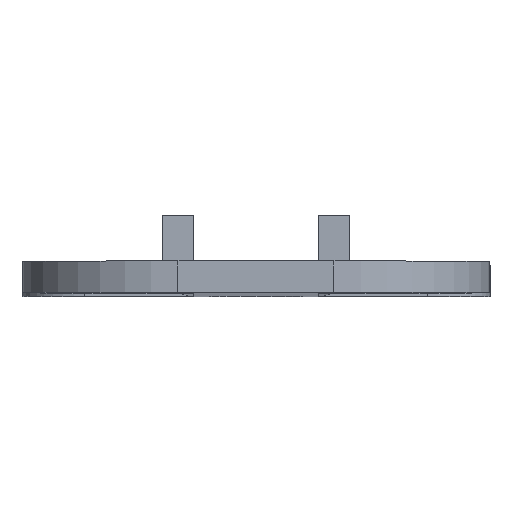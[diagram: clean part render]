
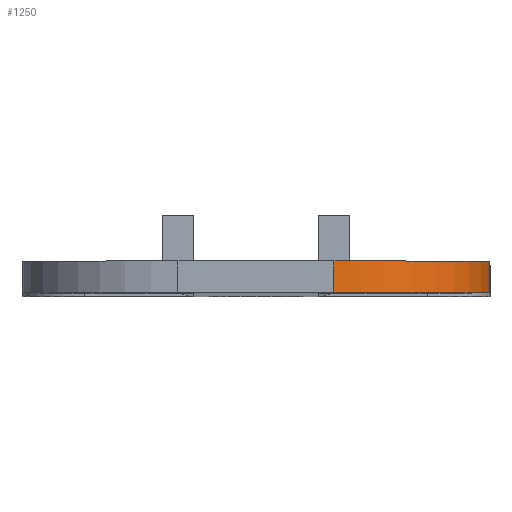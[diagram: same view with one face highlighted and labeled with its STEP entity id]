
A CAD part, top view. The second image highlights one B-rep face of the part: STEP entity #1250.
In plain terms, the highlighted cylindrical face has radius 10 mm (diameter 20 mm), a partial arc.
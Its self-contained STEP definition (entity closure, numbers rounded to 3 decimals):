
#114 = DIRECTION ( 'NONE',  ( 0., 1., 0. ) ) ;
#133 = DIRECTION ( 'NONE',  ( 0., -1., 0. ) ) ;
#166 = CARTESIAN_POINT ( 'NONE',  ( 15., 0., 150. ) ) ;
#250 = DIRECTION ( 'NONE',  ( 0., 1., 0. ) ) ;
#273 = CYLINDRICAL_SURFACE ( 'NONE', #1449, 10. ) ;
#277 = CARTESIAN_POINT ( 'NONE',  ( 5., 2., 150. ) ) ;
#290 = ORIENTED_EDGE ( 'NONE', *, *, #1151, .F. ) ;
#362 = AXIS2_PLACEMENT_3D ( 'NONE', #385, #133, #713 ) ;
#379 = EDGE_CURVE ( 'NONE', #1200, #716, #846, .T. ) ;
#381 = LINE ( 'NONE', #1537, #607 ) ;
#385 = CARTESIAN_POINT ( 'NONE',  ( 5., 0., 150. ) ) ;
#390 = AXIS2_PLACEMENT_3D ( 'NONE', #277, #250, #714 ) ;
#480 = CIRCLE ( 'NONE', #362, 10. ) ;
#544 = VERTEX_POINT ( 'NONE', #166 ) ;
#607 = VECTOR ( 'NONE', #114, 1000. ) ;
#620 = ORIENTED_EDGE ( 'NONE', *, *, #1583, .F. ) ;
#713 = DIRECTION ( 'NONE',  ( 0., 0., 1. ) ) ;
#714 = DIRECTION ( 'NONE',  ( 0., 0., 1. ) ) ;
#716 = VERTEX_POINT ( 'NONE', #1503 ) ;
#794 = DIRECTION ( 'NONE',  ( 0., -1., 0. ) ) ;
#804 = VERTEX_POINT ( 'NONE', #1687 ) ;
#846 = CIRCLE ( 'NONE', #390, 10. ) ;
#848 = EDGE_CURVE ( 'NONE', #544, #804, #480, .T. ) ;
#910 = VECTOR ( 'NONE', #794, 1000. ) ;
#1023 = ORIENTED_EDGE ( 'NONE', *, *, #848, .F. ) ;
#1107 = CARTESIAN_POINT ( 'NONE',  ( 15., 0., 150. ) ) ;
#1151 = EDGE_CURVE ( 'NONE', #716, #544, #1670, .T. ) ;
#1154 = ORIENTED_EDGE ( 'NONE', *, *, #379, .F. ) ;
#1161 = DIRECTION ( 'NONE',  ( 0., -1., 0. ) ) ;
#1200 = VERTEX_POINT ( 'NONE', #1312 ) ;
#1250 = ADVANCED_FACE ( 'NONE', ( #1471 ), #273, .T. ) ;
#1312 = CARTESIAN_POINT ( 'NONE',  ( 5., 2., 160. ) ) ;
#1449 = AXIS2_PLACEMENT_3D ( 'NONE', #1862, #1161, #1711 ) ;
#1471 = FACE_OUTER_BOUND ( 'NONE', #1869, .T. ) ;
#1503 = CARTESIAN_POINT ( 'NONE',  ( 15., 2., 150. ) ) ;
#1537 = CARTESIAN_POINT ( 'NONE',  ( 5., 2., 160. ) ) ;
#1583 = EDGE_CURVE ( 'NONE', #804, #1200, #381, .T. ) ;
#1670 = LINE ( 'NONE', #1107, #910 ) ;
#1687 = CARTESIAN_POINT ( 'NONE',  ( 5., 0., 160. ) ) ;
#1711 = DIRECTION ( 'NONE',  ( 0., 0., -1. ) ) ;
#1862 = CARTESIAN_POINT ( 'NONE',  ( 5., 0., 150. ) ) ;
#1869 = EDGE_LOOP ( 'NONE', ( #1023, #290, #1154, #620 ) ) ;
